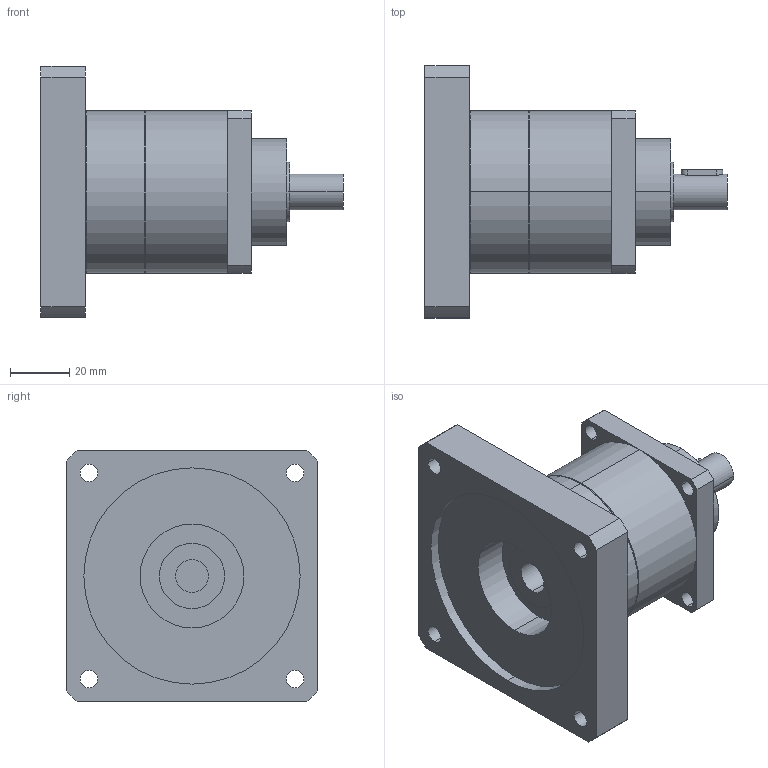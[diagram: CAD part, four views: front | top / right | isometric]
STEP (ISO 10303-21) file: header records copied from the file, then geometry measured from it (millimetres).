
FILE_DESCRIPTION(('CoCreate Modeling STEP Export'),'2;1');
FILE_NAME('GPT55_ig-3-4-5-7-10_12_B5A_11_P36.stp','2014-08-25T14:31:46',(''),(''),'CoCreate Modeling STEP processor for AP214 (Solid Model)','CoCreate Modeling 16.00C 25-Feb-2009 (C) Parametric Technology GmbH','');
FILE_SCHEMA(('AUTOMOTIVE_DESIGN { 1 0 10303 214 1 1 1 1 }'));
Length unit declared in the file: millimetre
Products named in the file (2): GPT55_ig-3-4-5-7-10_12_B5A_11_P36
Assembly tree (1 placements, depth 2):
  GPT55_ig-3-4-5-7-10_12_B5A_11_P36
    GPT55_ig-3-4-5-7-10_12_B5A_11_P36
Bounding box: 102 x 85 x 85 mm (x, y, z)
Volume: 231369.6 mm3; surface area: 37397.7 mm2
Topology: 1 solids, 1 shells, 77 faces, 204 edges, 139 vertices
Faces by surface type: cylinder 46, plane 27, cone 4
Entity records: 2515 total; most frequent: CARTESIAN_POINT 710, ORIENTED_EDGE 408, DIRECTION 318, EDGE_CURVE 204, VERTEX_POINT 139, AXIS2_PLACEMENT_3D 117, EDGE_LOOP 103, VECTOR 84
